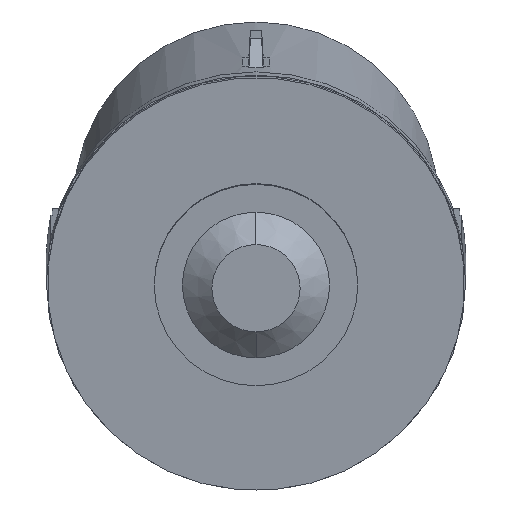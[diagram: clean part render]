
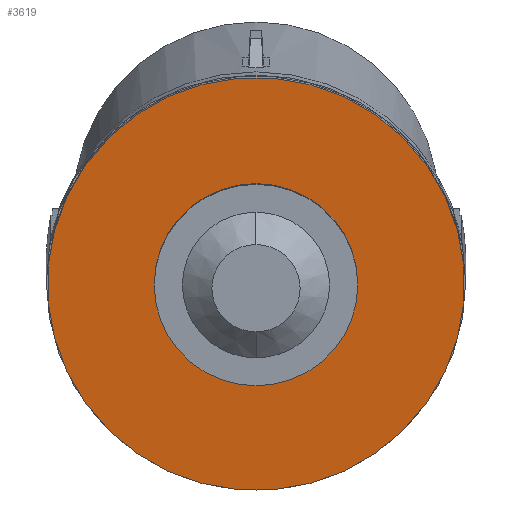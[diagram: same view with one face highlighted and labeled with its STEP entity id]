
A CAD part, left-side view. The second image highlights one B-rep face of the part: STEP entity #3619.
In plain terms, the highlighted planar face has unit normal (-0.99, 0, -0.144).
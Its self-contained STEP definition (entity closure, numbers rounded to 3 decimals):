
#113 = ORIENTED_EDGE ( 'NONE', *, *, #2991, .T. ) ;
#126 = DIRECTION ( 'NONE',  ( 0.99, 0., 0.144 ) ) ;
#175 = CARTESIAN_POINT ( 'NONE',  ( -590.194, -338.957, 789.323 ) ) ;
#193 = CARTESIAN_POINT ( 'NONE',  ( -569.267, -194., 645.884 ) ) ;
#239 = CARTESIAN_POINT ( 'NONE',  ( -569.267, -97., 645.884 ) ) ;
#473 = PLANE ( 'NONE',  #1726 ) ;
#489 = ORIENTED_EDGE ( 'NONE', *, *, #2239, .T. ) ;
#586 = CIRCLE ( 'NONE', #2777, 205. ) ;
#646 = DIRECTION ( 'NONE',  ( -0.102, -0.707, 0.7 ) ) ;
#850 = CARTESIAN_POINT ( 'NONE',  ( -569.267, -291., 645.884 ) ) ;
#1101 = VERTEX_POINT ( 'NONE', #3870 ) ;
#1168 = CARTESIAN_POINT ( 'NONE',  ( -569.267, -194., 645.884 ) ) ;
#1367 = FACE_BOUND ( 'NONE', #1531, .T. ) ;
#1377 = DIRECTION ( 'NONE',  ( 0., -1., 0. ) ) ;
#1427 = DIRECTION ( 'NONE',  ( -0.99, 0., -0.144 ) ) ;
#1521 = DIRECTION ( 'NONE',  ( -0.99, 0., -0.144 ) ) ;
#1522 = ORIENTED_EDGE ( 'NONE', *, *, #3766, .T. ) ;
#1531 = EDGE_LOOP ( 'NONE', ( #489, #1522 ) ) ;
#1658 = CIRCLE ( 'NONE', #2164, 97. ) ;
#1726 = AXIS2_PLACEMENT_3D ( 'NONE', #2414, #1757, #1798 ) ;
#1757 = DIRECTION ( 'NONE',  ( -0.99, 0., -0.144 ) ) ;
#1798 = DIRECTION ( 'NONE',  ( -0.102, -0.707, 0.7 ) ) ;
#2060 = DIRECTION ( 'NONE',  ( 0.99, 0., 0.144 ) ) ;
#2164 = AXIS2_PLACEMENT_3D ( 'NONE', #193, #126, #1377 ) ;
#2171 = VERTEX_POINT ( 'NONE', #175 ) ;
#2239 = EDGE_CURVE ( 'NONE', #2825, #3050, #2787, .T. ) ;
#2414 = CARTESIAN_POINT ( 'NONE',  ( -569.267, -194., 645.884 ) ) ;
#2577 = FACE_OUTER_BOUND ( 'NONE', #3103, .T. ) ;
#2708 = CIRCLE ( 'NONE', #3838, 205. ) ;
#2777 = AXIS2_PLACEMENT_3D ( 'NONE', #3236, #1427, #3007 ) ;
#2787 = CIRCLE ( 'NONE', #3714, 97. ) ;
#2816 = EDGE_CURVE ( 'NONE', #1101, #2171, #586, .T. ) ;
#2825 = VERTEX_POINT ( 'NONE', #850 ) ;
#2991 = EDGE_CURVE ( 'NONE', #2171, #1101, #2708, .T. ) ;
#3007 = DIRECTION ( 'NONE',  ( -0.102, -0.707, 0.7 ) ) ;
#3050 = VERTEX_POINT ( 'NONE', #239 ) ;
#3103 = EDGE_LOOP ( 'NONE', ( #3588, #113 ) ) ;
#3236 = CARTESIAN_POINT ( 'NONE',  ( -569.267, -194., 645.884 ) ) ;
#3531 = DIRECTION ( 'NONE',  ( 0., -1., 0. ) ) ;
#3588 = ORIENTED_EDGE ( 'NONE', *, *, #2816, .T. ) ;
#3619 = ADVANCED_FACE ( 'NONE', ( #1367, #2577 ), #473, .T. ) ;
#3629 = CARTESIAN_POINT ( 'NONE',  ( -569.267, -194., 645.884 ) ) ;
#3714 = AXIS2_PLACEMENT_3D ( 'NONE', #1168, #2060, #3531 ) ;
#3766 = EDGE_CURVE ( 'NONE', #3050, #2825, #1658, .T. ) ;
#3838 = AXIS2_PLACEMENT_3D ( 'NONE', #3629, #1521, #646 ) ;
#3870 = CARTESIAN_POINT ( 'NONE',  ( -548.34, -49.043, 502.446 ) ) ;
